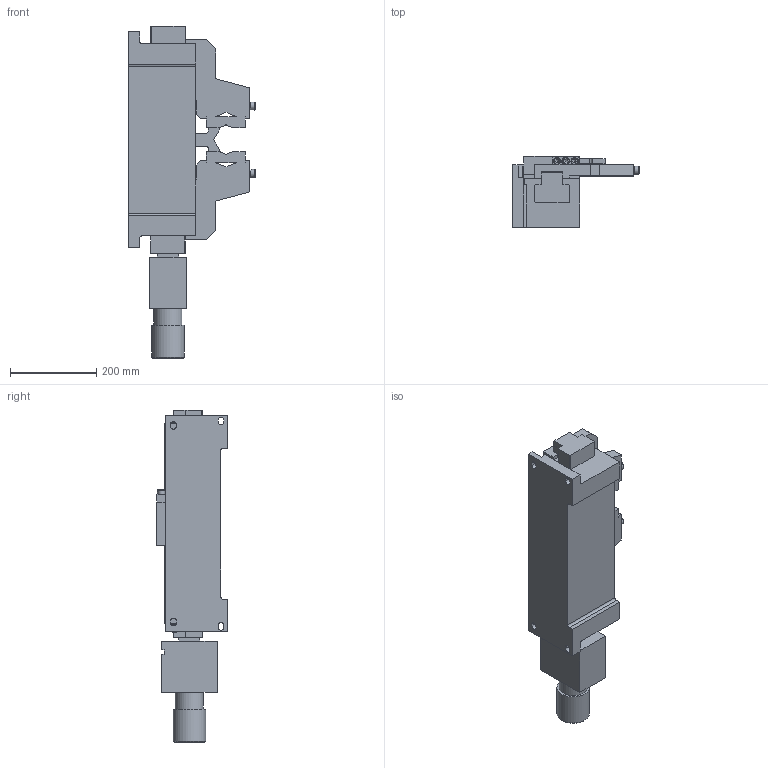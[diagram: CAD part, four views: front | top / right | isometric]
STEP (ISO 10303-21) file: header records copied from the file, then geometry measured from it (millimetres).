
FILE_DESCRIPTION((''),'2;1');
FILE_NAME('C:\VaultWork\Zeichnungen\Maßblätter\PZ130\PZ01313-1-0 PZ130 HY50 Spannbereich 15-80 mit Spanneinsatz hintere Endlage.stp','2009-02-05T11:15:08',('Test'),(''),'Autodesk Inventor 2008','Autodesk Inventor 2008','');
FILE_SCHEMA(('AUTOMOTIVE_DESIGN { 1 0 10303 214 1 1 1 1 }'));
Length unit declared in the file: millimetre
Products named in the file (1): PZ01313-1-0 PZ130 HY50 Spannbereich 15-80 mit Spanneinsatz hintere Endlage
Bounding box: 293.27 x 164 x 768 mm (x, y, z)
Volume: 12031048.9 mm3; surface area: 651288.3 mm2
Topology: 1 solids, 3 shells, 300 faces, 839 edges, 553 vertices
Faces by surface type: plane 218, bspline 44, cylinder 27, cone 6, torus 5
Full cylindrical faces by diameter (mm): 10 x2, 12 x2, 16 x2, 18 x3, 65 x1, 75 x1
Entity records: 9912 total; most frequent: CARTESIAN_POINT 2146, ORIENTED_EDGE 1588, DIRECTION 1353, EDGE_CURVE 794, VECTOR 689, LINE 689, VERTEX_POINT 539, EDGE_LOOP 369
